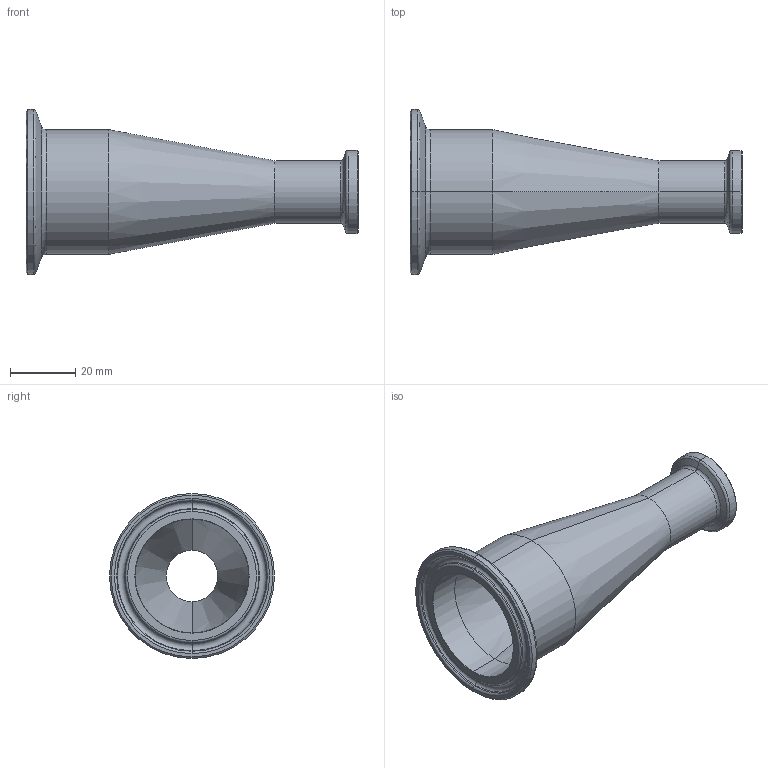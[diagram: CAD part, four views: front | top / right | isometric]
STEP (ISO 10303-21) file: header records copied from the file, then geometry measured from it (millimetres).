
FILE_DESCRIPTION (( 'STEP AP214' ), '1' );
FILE_NAME ('TEG31SCC6I1.5x.75.STEP', '2016-05-29T14:29:01', ( 'eran' ), ( '' ), 'SwSTEP 2.0', 'SolidWorks 2016', '' );
FILE_SCHEMA (( 'AUTOMOTIVE_DESIGN' ));
Length unit declared in the file: millimetre
Products named in the file (1): TEG31SCC6I1.5x.75
Bounding box: 101.6 x 50.5 x 50.5 mm (x, y, z)
Volume: 34257.6 mm3; surface area: 18562.4 mm2
Topology: 1 solids, 1 shells, 54 faces, 108 edges, 58 vertices
Faces by surface type: cone 20, torus 16, cylinder 14, plane 4
Entity records: 1428 total; most frequent: DIRECTION 292, CARTESIAN_POINT 221, ORIENTED_EDGE 216, AXIS2_PLACEMENT_3D 129, EDGE_CURVE 108, CIRCLE 74, EDGE_LOOP 58, VERTEX_POINT 58
